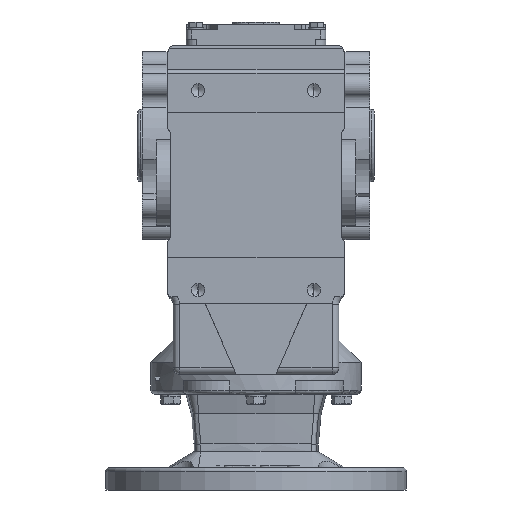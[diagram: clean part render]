
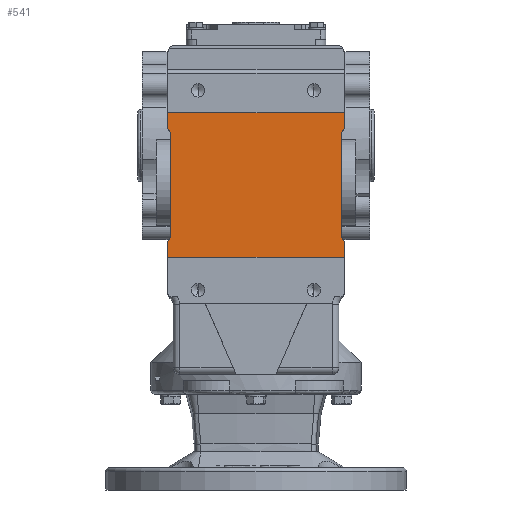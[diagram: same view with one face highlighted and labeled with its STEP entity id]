
A CAD part, front view. The second image highlights one B-rep face of the part: STEP entity #541.
In plain terms, the highlighted planar face has unit normal (0, -1, 0).
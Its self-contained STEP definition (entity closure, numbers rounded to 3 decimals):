
#541 = ADVANCED_FACE ( 'NONE', ( #40845 ), #29682, .F. ) ;
#1200 = VECTOR ( 'NONE', #35942, 1000. ) ;
#1203 = LINE ( 'NONE', #35940, #1200 ) ;
#4609 = VECTOR ( 'NONE', #46491, 1000. ) ;
#4611 = LINE ( 'NONE', #46485, #4609 ) ;
#4612 = VECTOR ( 'NONE', #33723, 1000. ) ;
#4614 = LINE ( 'NONE', #33727, #4612 ) ;
#4615 = VECTOR ( 'NONE', #33737, 1000. ) ;
#4616 = CIRCLE ( 'NONE', #7871, 5. ) ;
#4617 = VECTOR ( 'NONE', #33735, 1000. ) ;
#4618 = LINE ( 'NONE', #33736, #4615 ) ;
#4619 = VECTOR ( 'NONE', #33733, 1000. ) ;
#4620 = LINE ( 'NONE', #33734, #4617 ) ;
#4622 = LINE ( 'NONE', #33732, #4619 ) ;
#4626 = CIRCLE ( 'NONE', #7872, 5. ) ;
#4833 = CIRCLE ( 'NONE', #7846, 5. ) ;
#4834 = VECTOR ( 'NONE', #33074, 1000. ) ;
#4838 = LINE ( 'NONE', #33046, #4834 ) ;
#5026 = VECTOR ( 'NONE', #46478, 1000. ) ;
#5029 = LINE ( 'NONE', #46477, #5026 ) ;
#5061 = CIRCLE ( 'NONE', #7761, 5. ) ;
#7459 = AXIS2_PLACEMENT_3D ( 'NONE', #29680, #29685, #29686 ) ;
#7761 = AXIS2_PLACEMENT_3D ( 'NONE', #46453, #46454, #46455 ) ;
#7846 = AXIS2_PLACEMENT_3D ( 'NONE', #33124, #33126, #33128 ) ;
#7871 = AXIS2_PLACEMENT_3D ( 'NONE', #46482, #46483, #46484 ) ;
#7872 = AXIS2_PLACEMENT_3D ( 'NONE', #46488, #46489, #46490 ) ;
#15782 = CARTESIAN_POINT ( 'NONE',  ( -67., -136., 25. ) ) ;
#15793 = CARTESIAN_POINT ( 'NONE',  ( -67., -136., 14. ) ) ;
#15795 = CARTESIAN_POINT ( 'NONE',  ( 67., -136., 25. ) ) ;
#15796 = CARTESIAN_POINT ( 'NONE',  ( -65., -136., -70. ) ) ;
#15798 = CARTESIAN_POINT ( 'NONE',  ( -65., -136., 10. ) ) ;
#15800 = CARTESIAN_POINT ( 'NONE',  ( -67., -136., -74. ) ) ;
#15822 = CARTESIAN_POINT ( 'NONE',  ( 65., -136., 10. ) ) ;
#15831 = CARTESIAN_POINT ( 'NONE',  ( 67., -136., 14. ) ) ;
#20476 = VERTEX_POINT ( 'NONE', #15782 ) ;
#20487 = VERTEX_POINT ( 'NONE', #15793 ) ;
#20489 = VERTEX_POINT ( 'NONE', #15795 ) ;
#20490 = VERTEX_POINT ( 'NONE', #15796 ) ;
#20492 = VERTEX_POINT ( 'NONE', #15798 ) ;
#20494 = VERTEX_POINT ( 'NONE', #15800 ) ;
#20526 = VERTEX_POINT ( 'NONE', #15822 ) ;
#20548 = VERTEX_POINT ( 'NONE', #15831 ) ;
#29680 = CARTESIAN_POINT ( 'NONE',  ( 86.5, -136., -66. ) ) ;
#29682 = PLANE ( 'NONE',  #7459 ) ;
#29685 = DIRECTION ( 'NONE',  ( 0., 1., 0. ) ) ;
#29686 = DIRECTION ( 'NONE',  ( 0., 0., 1. ) ) ;
#30458 = EDGE_LOOP ( 'NONE', ( #42794, #42795, #42796, #42797, #42798, #42799, #42800, #42801, #42802, #42803, #42804, #42805 ) ) ;
#31199 = VERTEX_POINT ( 'NONE', #32428 ) ;
#31249 = VERTEX_POINT ( 'NONE', #32478 ) ;
#31395 = VERTEX_POINT ( 'NONE', #32546 ) ;
#31402 = VERTEX_POINT ( 'NONE', #32553 ) ;
#32428 = CARTESIAN_POINT ( 'NONE',  ( 65., -136., -70. ) ) ;
#32478 = CARTESIAN_POINT ( 'NONE',  ( 67., -136., -74. ) ) ;
#32546 = CARTESIAN_POINT ( 'NONE',  ( -67., -136., -85. ) ) ;
#32553 = CARTESIAN_POINT ( 'NONE',  ( 67., -136., -85. ) ) ;
#33046 = CARTESIAN_POINT ( 'NONE',  ( 65., -136., 6. ) ) ;
#33074 = DIRECTION ( 'NONE',  ( 0., 0., 1. ) ) ;
#33124 = CARTESIAN_POINT ( 'NONE',  ( 62., -136., 14. ) ) ;
#33126 = DIRECTION ( 'NONE',  ( 0., -1., 0. ) ) ;
#33128 = DIRECTION ( 'NONE',  ( 0., 0., 1. ) ) ;
#33723 = DIRECTION ( 'NONE',  ( 0., 0., 1. ) ) ;
#33727 = CARTESIAN_POINT ( 'NONE',  ( -65., -136., 6. ) ) ;
#33732 = CARTESIAN_POINT ( 'NONE',  ( -67., -136., 25. ) ) ;
#33733 = DIRECTION ( 'NONE',  ( -1., 0., 0. ) ) ;
#33734 = CARTESIAN_POINT ( 'NONE',  ( 67., -136., 25. ) ) ;
#33735 = DIRECTION ( 'NONE',  ( 0., 0., 1. ) ) ;
#33736 = CARTESIAN_POINT ( 'NONE',  ( -67., -136., 25. ) ) ;
#33737 = DIRECTION ( 'NONE',  ( 0., 0., -1. ) ) ;
#34536 = EDGE_CURVE ( 'NONE', #31249, #31199, #5061, .T. ) ;
#34547 = EDGE_CURVE ( 'NONE', #31402, #31249, #5029, .T. ) ;
#34758 = EDGE_CURVE ( 'NONE', #31199, #20526, #4838, .T. ) ;
#34770 = EDGE_CURVE ( 'NONE', #20526, #20548, #4833, .T. ) ;
#35004 = EDGE_CURVE ( 'NONE', #20489, #20476, #4622, .T. ) ;
#35006 = EDGE_CURVE ( 'NONE', #20548, #20489, #4620, .T. ) ;
#35009 = EDGE_CURVE ( 'NONE', #20476, #20487, #4618, .T. ) ;
#35011 = EDGE_CURVE ( 'NONE', #20487, #20492, #4616, .T. ) ;
#35013 = EDGE_CURVE ( 'NONE', #20490, #20492, #4614, .T. ) ;
#35015 = EDGE_CURVE ( 'NONE', #20490, #20494, #4626, .T. ) ;
#35017 = EDGE_CURVE ( 'NONE', #20494, #31395, #4611, .T. ) ;
#35940 = CARTESIAN_POINT ( 'NONE',  ( -67., -136., -85. ) ) ;
#35942 = DIRECTION ( 'NONE',  ( 1., 0., 0. ) ) ;
#37565 = EDGE_CURVE ( 'NONE', #31395, #31402, #1203, .T. ) ;
#40845 = FACE_OUTER_BOUND ( 'NONE', #30458, .T. ) ;
#42794 = ORIENTED_EDGE ( 'NONE', *, *, #34547, .T. ) ;
#42795 = ORIENTED_EDGE ( 'NONE', *, *, #34536, .T. ) ;
#42796 = ORIENTED_EDGE ( 'NONE', *, *, #34758, .T. ) ;
#42797 = ORIENTED_EDGE ( 'NONE', *, *, #34770, .T. ) ;
#42798 = ORIENTED_EDGE ( 'NONE', *, *, #35006, .T. ) ;
#42799 = ORIENTED_EDGE ( 'NONE', *, *, #35004, .T. ) ;
#42800 = ORIENTED_EDGE ( 'NONE', *, *, #35009, .T. ) ;
#42801 = ORIENTED_EDGE ( 'NONE', *, *, #35011, .T. ) ;
#42802 = ORIENTED_EDGE ( 'NONE', *, *, #35013, .F. ) ;
#42803 = ORIENTED_EDGE ( 'NONE', *, *, #35015, .T. ) ;
#42804 = ORIENTED_EDGE ( 'NONE', *, *, #35017, .T. ) ;
#42805 = ORIENTED_EDGE ( 'NONE', *, *, #37565, .T. ) ;
#46453 = CARTESIAN_POINT ( 'NONE',  ( 62., -136., -74. ) ) ;
#46454 = DIRECTION ( 'NONE',  ( 0., -1., 0. ) ) ;
#46455 = DIRECTION ( 'NONE',  ( 0., 0., 1. ) ) ;
#46477 = CARTESIAN_POINT ( 'NONE',  ( 67., -136., -70. ) ) ;
#46478 = DIRECTION ( 'NONE',  ( 0., 0., 1. ) ) ;
#46482 = CARTESIAN_POINT ( 'NONE',  ( -62., -136., 14. ) ) ;
#46483 = DIRECTION ( 'NONE',  ( 0., -1., 0. ) ) ;
#46484 = DIRECTION ( 'NONE',  ( 0., 0., 1. ) ) ;
#46485 = CARTESIAN_POINT ( 'NONE',  ( -67., -136., -70. ) ) ;
#46488 = CARTESIAN_POINT ( 'NONE',  ( -62., -136., -74. ) ) ;
#46489 = DIRECTION ( 'NONE',  ( 0., -1., 0. ) ) ;
#46490 = DIRECTION ( 'NONE',  ( 0., 0., 1. ) ) ;
#46491 = DIRECTION ( 'NONE',  ( 0., 0., -1. ) ) ;
